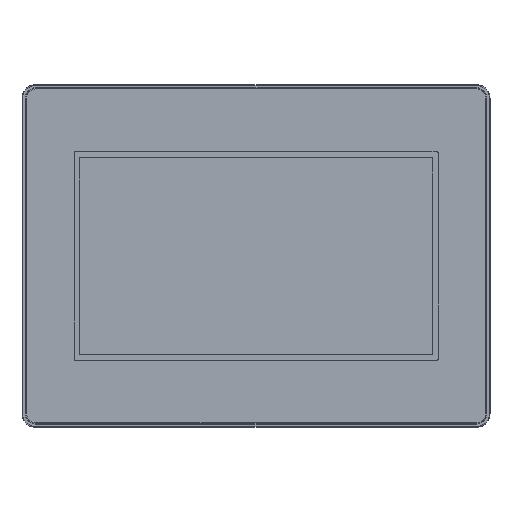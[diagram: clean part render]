
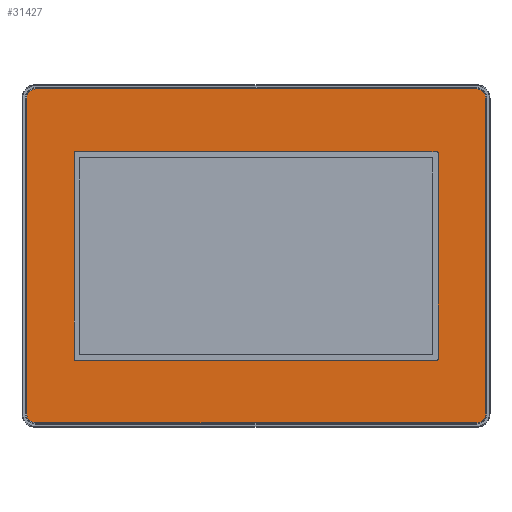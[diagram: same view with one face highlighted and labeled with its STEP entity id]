
A CAD part, top view. The second image highlights one B-rep face of the part: STEP entity #31427.
In plain terms, the highlighted planar face has unit normal (0, 0, 1).
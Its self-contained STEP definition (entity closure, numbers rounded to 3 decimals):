
#30184=CARTESIAN_POINT('',(-96.8,-69.3,0.2));
#30185=DIRECTION('',(0.,0.,-1.));
#30186=DIRECTION('',(0.,-1.,0.));
#30187=AXIS2_PLACEMENT_3D('',#30184,#30185,#30186);
#30192=DIRECTION('',(0.,1.,0.));
#30193=VECTOR('',#30192,138.6);
#30194=CARTESIAN_POINT('',(-100.8,-69.3,0.2));
#30195=LINE('',#30194,#30193);
#30199=CARTESIAN_POINT('',(-96.8,69.3,0.2));
#30200=DIRECTION('',(0.,0.,-1.));
#30201=DIRECTION('',(-1.,0.,0.));
#30202=AXIS2_PLACEMENT_3D('',#30199,#30200,#30201);
#30207=DIRECTION('',(1.,0.,0.));
#30208=VECTOR('',#30207,193.6);
#30209=CARTESIAN_POINT('',(-96.8,73.3,0.2));
#30210=LINE('',#30209,#30208);
#30214=CARTESIAN_POINT('',(96.8,69.3,0.2));
#30215=DIRECTION('',(0.,0.,-1.));
#30216=DIRECTION('',(0.,1.,0.));
#30217=AXIS2_PLACEMENT_3D('',#30214,#30215,#30216);
#30222=DIRECTION('',(0.,-1.,0.));
#30223=VECTOR('',#30222,138.6);
#30224=CARTESIAN_POINT('',(100.8,69.3,0.2));
#30225=LINE('',#30224,#30223);
#30229=CARTESIAN_POINT('',(96.8,-69.3,0.2));
#30230=DIRECTION('',(0.,0.,-1.));
#30231=DIRECTION('',(1.,0.,0.));
#30232=AXIS2_PLACEMENT_3D('',#30229,#30230,#30231);
#30237=DIRECTION('',(-1.,0.,0.));
#30238=VECTOR('',#30237,193.6);
#30239=CARTESIAN_POINT('',(96.8,-73.3,0.2));
#30240=LINE('',#30239,#30238);
#30244=CARTESIAN_POINT('',(-79.42,45.32,0.2));
#30245=DIRECTION('',(0.,0.,1.));
#30246=DIRECTION('',(0.,1.,0.));
#30247=AXIS2_PLACEMENT_3D('',#30244,#30245,#30246);
#30252=CARTESIAN_POINT('',(-79.42,-45.32,0.2));
#30253=DIRECTION('',(0.,0.,1.));
#30254=DIRECTION('',(-1.,0.,0.));
#30255=AXIS2_PLACEMENT_3D('',#30252,#30253,#30254);
#30260=CARTESIAN_POINT('',(79.42,-45.32,0.2));
#30261=DIRECTION('',(0.,0.,1.));
#30262=DIRECTION('',(0.,-1.,0.));
#30263=AXIS2_PLACEMENT_3D('',#30260,#30261,#30262);
#30268=CARTESIAN_POINT('',(79.42,45.32,0.2));
#30269=DIRECTION('',(0.,0.,1.));
#30270=DIRECTION('',(1.,0.,0.));
#30271=AXIS2_PLACEMENT_3D('',#30268,#30269,#30270);
#30276=DIRECTION('',(1.,0.,0.));
#30277=VECTOR('',#30276,158.84);
#30278=CARTESIAN_POINT('',(-79.42,45.82,0.2));
#30279=LINE('',#30278,#30277);
#30297=DIRECTION('',(0.,-1.,0.));
#30298=VECTOR('',#30297,90.64);
#30299=CARTESIAN_POINT('',(79.92,45.32,0.2));
#30300=LINE('',#30299,#30298);
#30318=DIRECTION('',(-1.,0.,0.));
#30319=VECTOR('',#30318,158.84);
#30320=CARTESIAN_POINT('',(79.42,-45.82,0.2));
#30321=LINE('',#30320,#30319);
#30339=DIRECTION('',(0.,1.,0.));
#30340=VECTOR('',#30339,90.64);
#30341=CARTESIAN_POINT('',(-79.92,-45.32,0.2));
#30342=LINE('',#30341,#30340);
#31059=CARTESIAN_POINT('',(-96.8,-73.3,0.2));
#31060=VERTEX_POINT('',#31059);
#31061=CARTESIAN_POINT('',(-100.8,-69.3,0.2));
#31062=VERTEX_POINT('',#31061);
#31063=CARTESIAN_POINT('',(96.8,-73.3,0.2));
#31064=VERTEX_POINT('',#31063);
#31065=CARTESIAN_POINT('',(100.8,-69.3,0.2));
#31066=VERTEX_POINT('',#31065);
#31067=CARTESIAN_POINT('',(100.8,69.3,0.2));
#31068=VERTEX_POINT('',#31067);
#31069=CARTESIAN_POINT('',(96.8,73.3,0.2));
#31070=VERTEX_POINT('',#31069);
#31071=CARTESIAN_POINT('',(-96.8,73.3,0.2));
#31072=VERTEX_POINT('',#31071);
#31073=CARTESIAN_POINT('',(-100.8,69.3,0.2));
#31074=VERTEX_POINT('',#31073);
#31075=CARTESIAN_POINT('',(-79.42,45.82,0.2));
#31076=CARTESIAN_POINT('',(79.42,45.82,0.2));
#31077=VERTEX_POINT('',#31075);
#31078=VERTEX_POINT('',#31076);
#31079=CARTESIAN_POINT('',(-79.92,45.32,0.2));
#31080=VERTEX_POINT('',#31079);
#31081=CARTESIAN_POINT('',(-79.92,-45.32,0.2));
#31082=VERTEX_POINT('',#31081);
#31083=CARTESIAN_POINT('',(-79.42,-45.82,0.2));
#31084=VERTEX_POINT('',#31083);
#31085=CARTESIAN_POINT('',(79.42,-45.82,0.2));
#31086=VERTEX_POINT('',#31085);
#31087=CARTESIAN_POINT('',(79.92,-45.32,0.2));
#31088=VERTEX_POINT('',#31087);
#31089=CARTESIAN_POINT('',(79.92,45.32,0.2));
#31090=VERTEX_POINT('',#31089);
#31394=CARTESIAN_POINT('',(0.,0.,0.2));
#31395=DIRECTION('',(0.,0.,1.));
#31396=DIRECTION('',(1.,0.,0.));
#31397=AXIS2_PLACEMENT_3D('',#31394,#31395,#31396);
#31398=PLANE('',#31397);
#31399=ORIENTED_EDGE('',*,*,#31292,.T.);
#31400=ORIENTED_EDGE('',*,*,#31389,.T.);
#31401=ORIENTED_EDGE('',*,*,#31376,.T.);
#31402=ORIENTED_EDGE('',*,*,#31362,.T.);
#31403=ORIENTED_EDGE('',*,*,#31348,.T.);
#31404=ORIENTED_EDGE('',*,*,#31334,.T.);
#31405=ORIENTED_EDGE('',*,*,#31320,.T.);
#31406=ORIENTED_EDGE('',*,*,#31306,.T.);
#31407=EDGE_LOOP('',(#31399,#31400,#31401,#31402,#31403,#31404,#31405,#31406));
#31408=FACE_OUTER_BOUND('',#31407,.F.);
#31410=ORIENTED_EDGE('',*,*,#31409,.F.);
#31412=ORIENTED_EDGE('',*,*,#31411,.T.);
#31414=ORIENTED_EDGE('',*,*,#31413,.F.);
#31416=ORIENTED_EDGE('',*,*,#31415,.T.);
#31418=ORIENTED_EDGE('',*,*,#31417,.F.);
#31420=ORIENTED_EDGE('',*,*,#31419,.T.);
#31422=ORIENTED_EDGE('',*,*,#31421,.F.);
#31424=ORIENTED_EDGE('',*,*,#31423,.T.);
#31425=EDGE_LOOP('',(#31410,#31412,#31414,#31416,#31418,#31420,#31422,#31424));
#31426=FACE_BOUND('',#31425,.F.);
#30188=CIRCLE('',#30187,4.);
#30203=CIRCLE('',#30202,4.);
#30218=CIRCLE('',#30217,4.);
#30233=CIRCLE('',#30232,4.);
#30248=CIRCLE('',#30247,0.5);
#30256=CIRCLE('',#30255,0.5);
#30264=CIRCLE('',#30263,0.5);
#30272=CIRCLE('',#30271,0.5);
#31292=EDGE_CURVE('',#31060,#31062,#30188,.T.);
#31306=EDGE_CURVE('',#31064,#31060,#30240,.T.);
#31320=EDGE_CURVE('',#31066,#31064,#30233,.T.);
#31334=EDGE_CURVE('',#31068,#31066,#30225,.T.);
#31348=EDGE_CURVE('',#31070,#31068,#30218,.T.);
#31362=EDGE_CURVE('',#31072,#31070,#30210,.T.);
#31376=EDGE_CURVE('',#31074,#31072,#30203,.T.);
#31389=EDGE_CURVE('',#31062,#31074,#30195,.T.);
#31409=EDGE_CURVE('',#31077,#31078,#30279,.T.);
#31411=EDGE_CURVE('',#31077,#31080,#30248,.T.);
#31413=EDGE_CURVE('',#31082,#31080,#30342,.T.);
#31415=EDGE_CURVE('',#31082,#31084,#30256,.T.);
#31417=EDGE_CURVE('',#31086,#31084,#30321,.T.);
#31419=EDGE_CURVE('',#31086,#31088,#30264,.T.);
#31421=EDGE_CURVE('',#31090,#31088,#30300,.T.);
#31423=EDGE_CURVE('',#31090,#31078,#30272,.T.);
#31427=ADVANCED_FACE('',(#31408,#31426),#31398,.T.);
